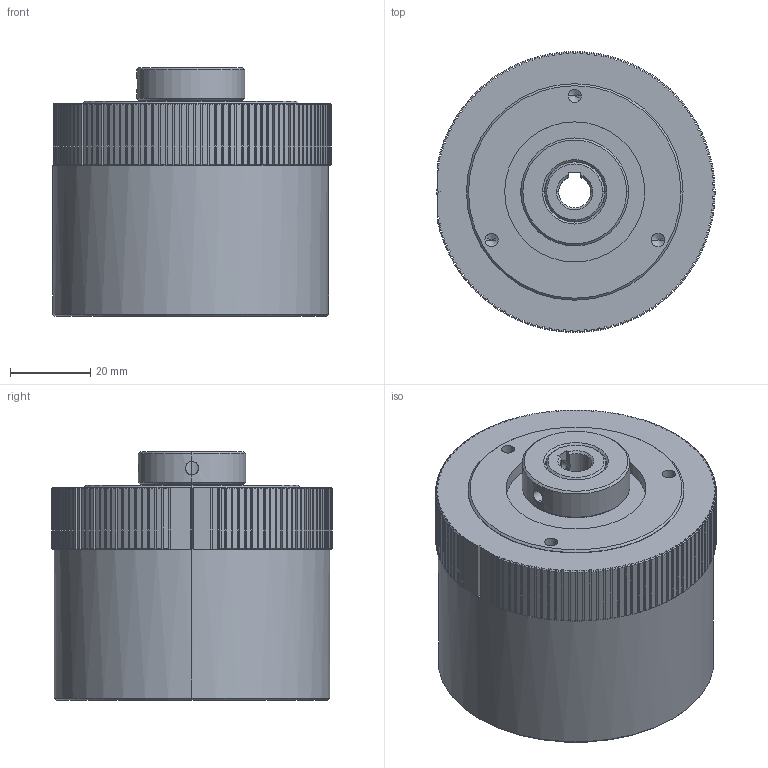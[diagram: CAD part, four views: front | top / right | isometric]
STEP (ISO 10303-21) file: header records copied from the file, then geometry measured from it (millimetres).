
FILE_DESCRIPTION (( 'STEP AP203' ), '1' );
FILE_NAME ('MTL5-8mm CUSTOMER SOLID.STEP', '2014-05-23T19:27:18', ( '' ), ( '' ), 'SwSTEP 2.0', 'SolidWorks 2014', '' );
FILE_SCHEMA (( 'CONFIG_CONTROL_DESIGN' ));
Length unit declared in the file: inch
Products named in the file (1): MTL5-8mm CUSTOMER SOLID
Bounding box: 69.47 x 70.1 x 62.03 mm (x, y, z)
Volume: 194623.9 mm3; surface area: 25816.2 mm2
Topology: 1 solids, 1 shells, 811 faces, 2375 edges, 1567 vertices
Faces by surface type: plane 387, cone 273, cylinder 151
Entity records: 27513 total; most frequent: CARTESIAN_POINT 6378, ORIENTED_EDGE 4726, DIRECTION 4066, EDGE_CURVE 2363, VERTEX_POINT 1567, AXIS2_PLACEMENT_3D 1381, LINE 1304, VECTOR 1304
